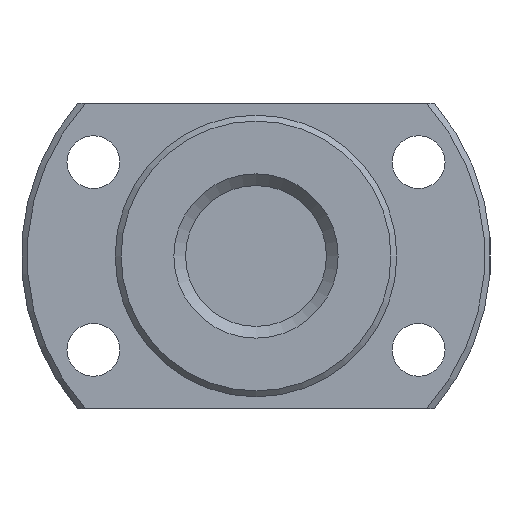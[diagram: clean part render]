
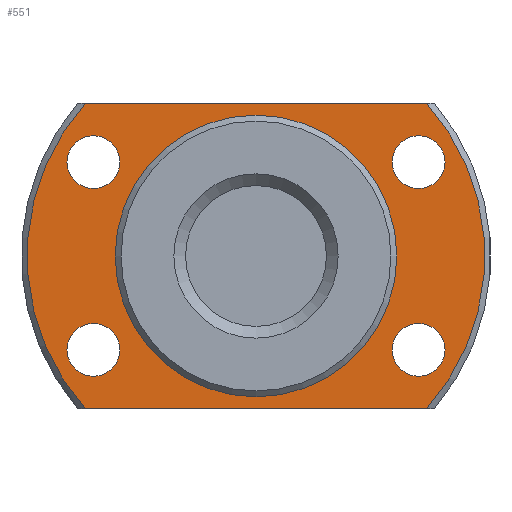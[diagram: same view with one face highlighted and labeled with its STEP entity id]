
A CAD part, left-side view. The second image highlights one B-rep face of the part: STEP entity #551.
In plain terms, the highlighted planar face has unit normal (-1, 0, 0) as drawn and (1, 0, 0) by its records, which use the part's own axes.
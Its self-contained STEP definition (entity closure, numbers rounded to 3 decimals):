
#82=CIRCLE('',#639,2.25);
#83=CIRCLE('',#640,2.25);
#84=CIRCLE('',#641,2.25);
#85=CIRCLE('',#642,2.25);
#86=CIRCLE('',#643,12.);
#87=CIRCLE('',#644,19.5);
#88=CIRCLE('',#645,19.5);
#158=ORIENTED_EDGE('',*,*,#263,.T.);
#159=ORIENTED_EDGE('',*,*,#264,.T.);
#160=ORIENTED_EDGE('',*,*,#265,.T.);
#161=ORIENTED_EDGE('',*,*,#266,.T.);
#162=ORIENTED_EDGE('',*,*,#267,.F.);
#163=ORIENTED_EDGE('',*,*,#268,.T.);
#164=ORIENTED_EDGE('',*,*,#269,.T.);
#165=ORIENTED_EDGE('',*,*,#270,.T.);
#166=ORIENTED_EDGE('',*,*,#271,.T.);
#263=EDGE_CURVE('',#322,#322,#82,.F.);
#264=EDGE_CURVE('',#323,#323,#83,.F.);
#265=EDGE_CURVE('',#324,#324,#84,.F.);
#266=EDGE_CURVE('',#325,#325,#85,.F.);
#267=EDGE_CURVE('',#326,#326,#86,.T.);
#268=EDGE_CURVE('',#327,#328,#87,.T.);
#269=EDGE_CURVE('',#328,#329,#357,.T.);
#270=EDGE_CURVE('',#329,#330,#88,.T.);
#271=EDGE_CURVE('',#330,#327,#358,.T.);
#322=VERTEX_POINT('',#938);
#323=VERTEX_POINT('',#940);
#324=VERTEX_POINT('',#942);
#325=VERTEX_POINT('',#944);
#326=VERTEX_POINT('',#946);
#327=VERTEX_POINT('',#948);
#328=VERTEX_POINT('',#949);
#329=VERTEX_POINT('',#951);
#330=VERTEX_POINT('',#953);
#357=LINE('',#950,#375);
#358=LINE('',#954,#376);
#375=VECTOR('',#786,1000.);
#376=VECTOR('',#789,1000.);
#413=EDGE_LOOP('',(#158));
#414=EDGE_LOOP('',(#159));
#415=EDGE_LOOP('',(#160));
#416=EDGE_LOOP('',(#161));
#417=EDGE_LOOP('',(#162));
#418=EDGE_LOOP('',(#163,#164,#165,#166));
#481=FACE_BOUND('',#413,.T.);
#482=FACE_BOUND('',#414,.T.);
#483=FACE_BOUND('',#415,.T.);
#484=FACE_BOUND('',#416,.T.);
#485=FACE_BOUND('',#417,.T.);
#486=FACE_BOUND('',#418,.T.);
#528=PLANE('',#638);
#551=ADVANCED_FACE('',(#481,#482,#483,#484,#485,#486),#528,.T.);
#638=AXIS2_PLACEMENT_3D('',#936,#772,#773);
#639=AXIS2_PLACEMENT_3D('',#937,#774,#775);
#640=AXIS2_PLACEMENT_3D('',#939,#776,#777);
#641=AXIS2_PLACEMENT_3D('',#941,#778,#779);
#642=AXIS2_PLACEMENT_3D('',#943,#780,#781);
#643=AXIS2_PLACEMENT_3D('',#945,#782,#783);
#644=AXIS2_PLACEMENT_3D('',#947,#784,#785);
#645=AXIS2_PLACEMENT_3D('',#952,#787,#788);
#772=DIRECTION('',(1.,0.,0.));
#773=DIRECTION('',(0.,0.,-1.));
#774=DIRECTION('',(1.,0.,0.));
#775=DIRECTION('',(0.,0.,-1.));
#776=DIRECTION('',(1.,0.,0.));
#777=DIRECTION('',(0.,0.,-1.));
#778=DIRECTION('',(1.,0.,0.));
#779=DIRECTION('',(0.,0.,-1.));
#780=DIRECTION('',(1.,0.,0.));
#781=DIRECTION('',(0.,0.,-1.));
#782=DIRECTION('',(1.,0.,0.));
#783=DIRECTION('',(0.,0.,-1.));
#784=DIRECTION('',(1.,0.,0.));
#785=DIRECTION('',(0.,0.,-1.));
#786=DIRECTION('',(0.,-1.,0.));
#787=DIRECTION('',(1.,0.,0.));
#788=DIRECTION('',(0.,0.,-1.));
#789=DIRECTION('',(0.,1.,0.));
#936=CARTESIAN_POINT('',(8.,12.,0.));
#937=CARTESIAN_POINT('',(8.,13.856,8.));
#938=CARTESIAN_POINT('',(8.,13.856,5.75));
#939=CARTESIAN_POINT('',(8.,-13.856,-8.));
#940=CARTESIAN_POINT('',(8.,-13.856,-10.25));
#941=CARTESIAN_POINT('',(8.,-13.856,8.));
#942=CARTESIAN_POINT('',(8.,-13.856,5.75));
#943=CARTESIAN_POINT('',(8.,13.856,-8.));
#944=CARTESIAN_POINT('',(8.,13.856,-10.25));
#945=CARTESIAN_POINT('',(8.,0.,0.));
#946=CARTESIAN_POINT('',(8.,0.,-12.));
#947=CARTESIAN_POINT('',(8.,0.,0.));
#948=CARTESIAN_POINT('',(8.,14.534,-13.));
#949=CARTESIAN_POINT('',(8.,14.534,13.));
#950=CARTESIAN_POINT('',(8.,12.,13.));
#951=CARTESIAN_POINT('',(8.,-14.534,13.));
#952=CARTESIAN_POINT('',(8.,0.,0.));
#953=CARTESIAN_POINT('',(8.,-14.534,-13.));
#954=CARTESIAN_POINT('',(8.,12.,-13.));
